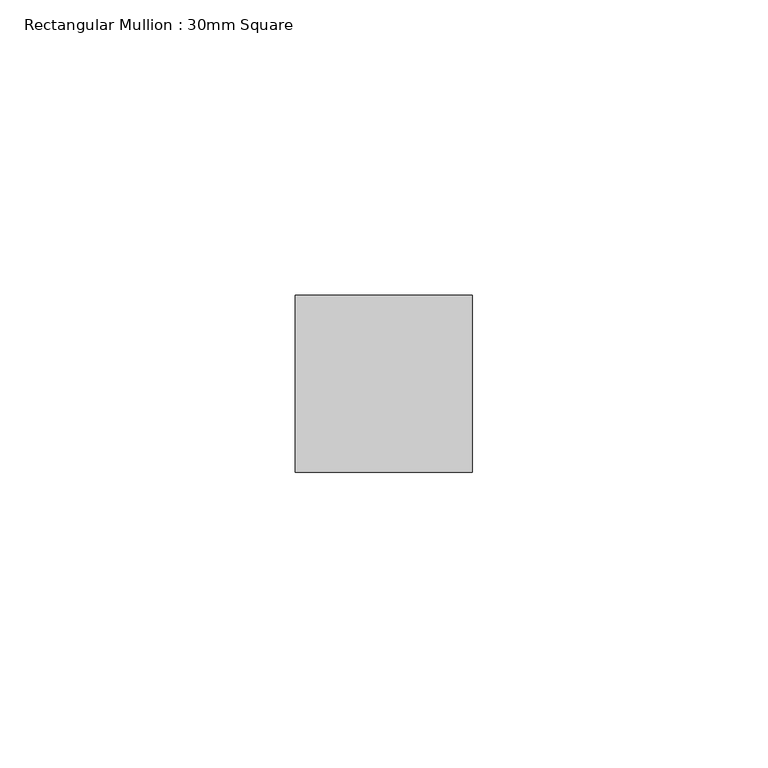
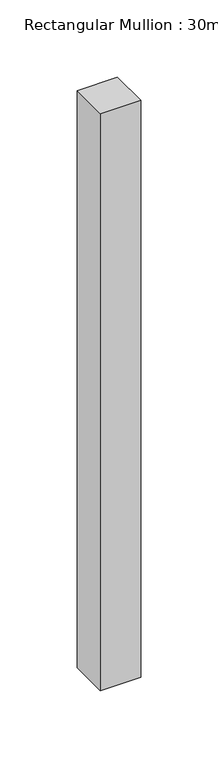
"""IFC4 building model written with IfcOpenShell, lengths in millimetres: member geometry, Rectangular Mullion : 30mm Square."""

from ifc_helpers import new_model, si_unit, frame, origin, place, context, project, spatial, polyline, outline, extrude, source, transform, mapped, element, save


def rectangular_mullion_30mm_square_e9650f26(model_context):
    return source(origin(), model_context, "Body", "SweptSolid", [
        extrude(outline(polyline([(0.0, 15.0), (0.0, -15.0), (-30.0, -15.0), (-30.0, 15.0), (0.0, 15.0)])), frame((0.0, 0.0, -456.0968548), z_axis=(0.0, 0.0, 1.0), x_axis=(1.0, 0.0, 0.0)), (0.0, 0.0, 1.0), 456.0968548),
    ])


if __name__ == "__main__":
    model = new_model("IFC4")
    model_context = context("Model", 3, world=origin())
    ifc_project = project(units=[si_unit("LENGTHUNIT", "METRE", prefix="MILLI")], contexts=[model_context])
    site = spatial("IfcSite", under=ifc_project)
    building = spatial("IfcBuilding", under=site)
    placement = place(None, origin())
    rectangular_mullion_30mm_square_shape = rectangular_mullion_30mm_square_e9650f26(model_context)
    element("IfcMember", 1, ObjectType="Rectangular Mullion : 30mm Square", at=placement, inside=building, context=model_context, shape_type="MappedRepresentation", body=[
        mapped(rectangular_mullion_30mm_square_shape, transform((0.0, 0.0, 0.0), x_axis=(1.0, 0.0, 0.0), y_axis=(0.0, 1.0, 0.0), z_axis=(0.0, 0.0, 1.0))),
    ])
    save(model, "model.ifc")
